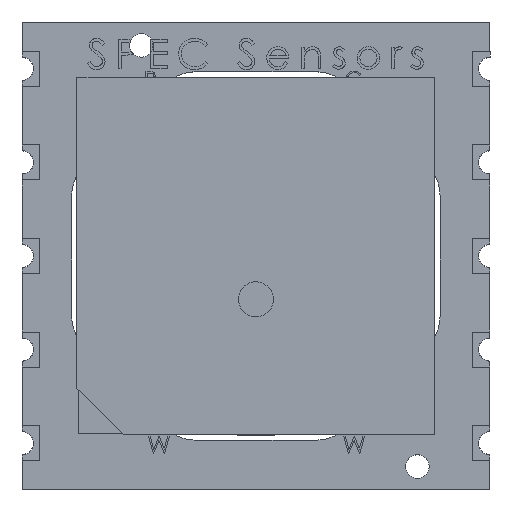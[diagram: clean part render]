
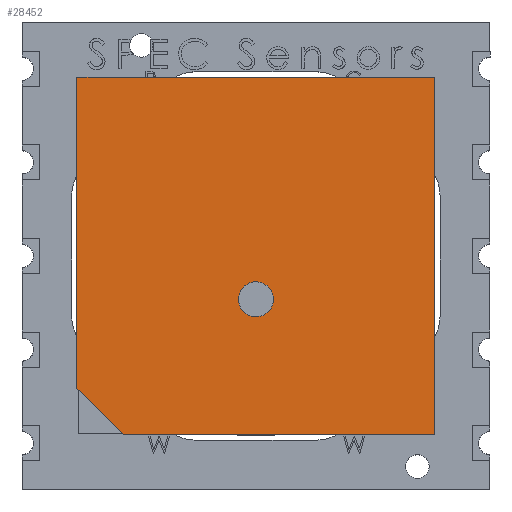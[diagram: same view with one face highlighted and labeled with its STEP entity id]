
A CAD part, top view. The second image highlights one B-rep face of the part: STEP entity #28452.
In plain terms, the highlighted planar face has unit normal (0, 0, 1).
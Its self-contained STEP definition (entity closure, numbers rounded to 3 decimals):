
#3 = CARTESIAN_POINT ( 'NONE',  ( -4.712, 7.089, 0.389 ) ) ;
#448 = ORIENTED_EDGE ( 'NONE', *, *, #4861, .T. ) ;
#887 = CARTESIAN_POINT ( 'NONE',  ( -20.012, 22.389, 0.389 ) ) ;
#1904 = EDGE_LOOP ( 'NONE', ( #448, #12046, #14351, #22386, #4303 ) ) ;
#2157 = CARTESIAN_POINT ( 'NONE',  ( 0., 0., 0.389 ) ) ;
#2380 = EDGE_CURVE ( 'NONE', #26896, #24497, #25041, .T. ) ;
#2440 = CARTESIAN_POINT ( 'NONE',  ( -18.012, 7.089, 0.389 ) ) ;
#3560 = VERTEX_POINT ( 'NONE', #2440 ) ;
#3999 = DIRECTION ( 'NONE',  ( 1., 0., 0. ) ) ;
#4128 = VERTEX_POINT ( 'NONE', #7350 ) ;
#4303 = ORIENTED_EDGE ( 'NONE', *, *, #16489, .T. ) ;
#4374 = VECTOR ( 'NONE', #24514, 1000. ) ;
#4861 = EDGE_CURVE ( 'NONE', #25572, #26945, #12170, .T. ) ;
#5346 = CARTESIAN_POINT ( 'NONE',  ( -4.712, 22.389, 0.389 ) ) ;
#5913 = CARTESIAN_POINT ( 'NONE',  ( -20.012, 9.089, 0.389 ) ) ;
#6152 = VECTOR ( 'NONE', #26727, 1000. ) ;
#6947 = EDGE_CURVE ( 'NONE', #4128, #4128, #23017, .T. ) ;
#7281 = DIRECTION ( 'NONE',  ( 0., 1., 0. ) ) ;
#7350 = CARTESIAN_POINT ( 'NONE',  ( -11.612, 12.884, 0.389 ) ) ;
#9394 = CARTESIAN_POINT ( 'NONE',  ( -4.712, 22.389, 0.389 ) ) ;
#9639 = CARTESIAN_POINT ( 'NONE',  ( -20.012, 22.389, 0.389 ) ) ;
#10588 = ORIENTED_EDGE ( 'NONE', *, *, #6947, .F. ) ;
#12046 = ORIENTED_EDGE ( 'NONE', *, *, #23011, .T. ) ;
#12170 = LINE ( 'NONE', #9394, #26259 ) ;
#12794 = CARTESIAN_POINT ( 'NONE',  ( -12.362, 12.884, 0.389 ) ) ;
#13367 = DIRECTION ( 'NONE',  ( 1., 0., 0. ) ) ;
#13880 = EDGE_LOOP ( 'NONE', ( #10588 ) ) ;
#13943 = FACE_OUTER_BOUND ( 'NONE', #1904, .T. ) ;
#14221 = VECTOR ( 'NONE', #18474, 1000. ) ;
#14351 = ORIENTED_EDGE ( 'NONE', *, *, #2380, .T. ) ;
#14674 = AXIS2_PLACEMENT_3D ( 'NONE', #12794, #19545, #3999 ) ;
#16489 = EDGE_CURVE ( 'NONE', #3560, #25572, #16989, .T. ) ;
#16989 = LINE ( 'NONE', #28952, #4374 ) ;
#17068 = PLANE ( 'NONE',  #19431 ) ;
#17967 = DIRECTION ( 'NONE',  ( 0., 0., 1. ) ) ;
#18474 = DIRECTION ( 'NONE',  ( -1., 0., 0. ) ) ;
#19431 = AXIS2_PLACEMENT_3D ( 'NONE', #2157, #17967, #13367 ) ;
#19470 = CARTESIAN_POINT ( 'NONE',  ( -20.012, 9.089, 0.389 ) ) ;
#19545 = DIRECTION ( 'NONE',  ( 0., 0., 1. ) ) ;
#19739 = EDGE_CURVE ( 'NONE', #24497, #3560, #23642, .T. ) ;
#19896 = CARTESIAN_POINT ( 'NONE',  ( -20.012, 22.389, 0.389 ) ) ;
#22386 = ORIENTED_EDGE ( 'NONE', *, *, #19739, .T. ) ;
#22547 = VECTOR ( 'NONE', #23700, 1000. ) ;
#23011 = EDGE_CURVE ( 'NONE', #26945, #26896, #24756, .T. ) ;
#23017 = CIRCLE ( 'NONE', #14674, 0.75 ) ;
#23486 = FACE_BOUND ( 'NONE', #13880, .T. ) ;
#23642 = LINE ( 'NONE', #19470, #22547 ) ;
#23700 = DIRECTION ( 'NONE',  ( 0.707, -0.707, 0. ) ) ;
#24497 = VERTEX_POINT ( 'NONE', #5913 ) ;
#24514 = DIRECTION ( 'NONE',  ( 1., 0., 0. ) ) ;
#24756 = LINE ( 'NONE', #9639, #14221 ) ;
#25041 = LINE ( 'NONE', #19896, #6152 ) ;
#25572 = VERTEX_POINT ( 'NONE', #3 ) ;
#26259 = VECTOR ( 'NONE', #7281, 1000. ) ;
#26727 = DIRECTION ( 'NONE',  ( 0., -1., 0. ) ) ;
#26896 = VERTEX_POINT ( 'NONE', #887 ) ;
#26945 = VERTEX_POINT ( 'NONE', #5346 ) ;
#28452 = ADVANCED_FACE ( 'NONE', ( #23486, #13943 ), #17068, .T. ) ;
#28952 = CARTESIAN_POINT ( 'NONE',  ( -18.012, 7.089, 0.389 ) ) ;
